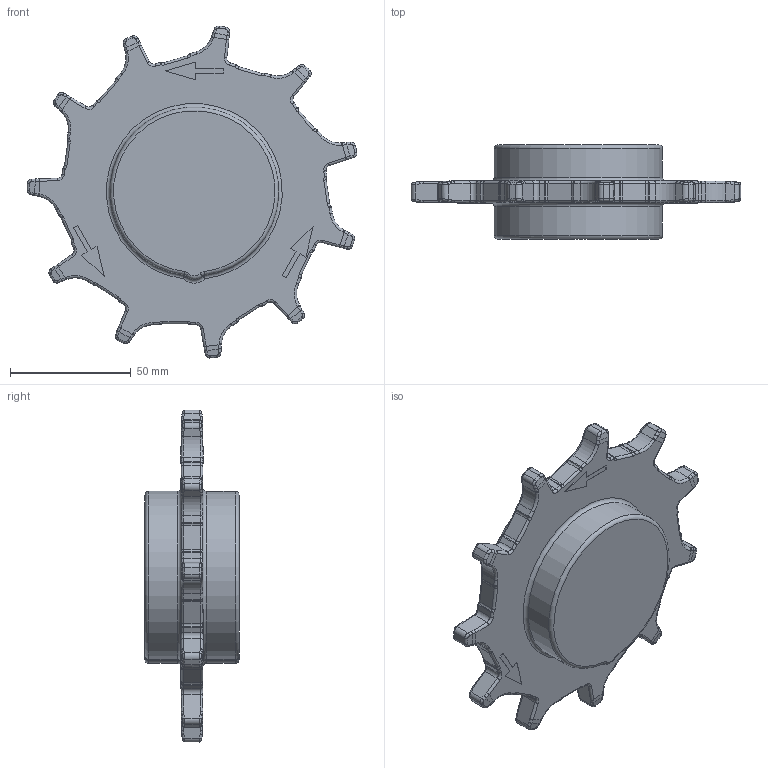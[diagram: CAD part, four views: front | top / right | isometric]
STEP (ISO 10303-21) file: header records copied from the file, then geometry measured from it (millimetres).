
FILE_DESCRIPTION((''),'2;1');
FILE_NAME('82Z11','2011-12-12T',('mth'),(''),'PRO/ENGINEER BY PARAMETRIC TECHNOLOGY CORPORATION, 2010280','PRO/ENGINEER BY PARAMETRIC TECHNOLOGY CORPORATION, 2010280','');
FILE_SCHEMA(('CONFIG_CONTROL_DESIGN','SHAPE_APPEARANCE_LAYERS_GROUPS'));
Length unit declared in the file: millimetre
Products named in the file (1): 82Z11
Bounding box: 136.88 x 39 x 137.73 mm (x, y, z)
Volume: 215199.4 mm3; surface area: 32931 mm2
Topology: 1 solids, 1 shells, 1238 faces, 3122 edges, 1928 vertices
Faces by surface type: plane 665, cylinder 227, bspline 176, torus 144, cone 22, sphere 4
Entity records: 44041 total; most frequent: CARTESIAN_POINT 15301, ORIENTED_EDGE 6244, DIRECTION 5574, EDGE_CURVE 3122, VECTOR 2090, LINE 2090, VERTEX_POINT 1928, AXIS2_PLACEMENT_3D 1742
